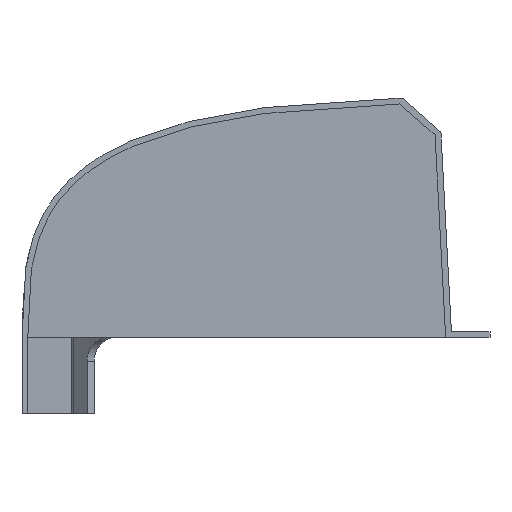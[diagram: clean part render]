
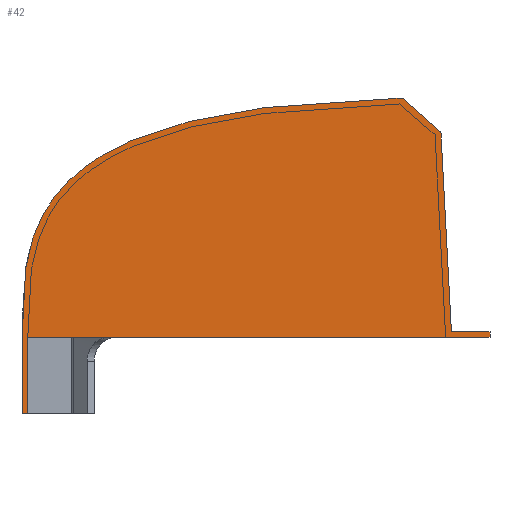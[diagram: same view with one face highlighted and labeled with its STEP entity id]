
A CAD part, left-side view. The second image highlights one B-rep face of the part: STEP entity #42.
In plain terms, the highlighted planar face has unit normal (-1, 0, 0).
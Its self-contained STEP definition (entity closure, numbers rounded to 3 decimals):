
#42=ADVANCED_FACE('',(#76),#525,.T.);
#76=FACE_OUTER_BOUND('',#110,.T.);
#110=EDGE_LOOP('',(#248,#249,#250,#251,#252,#253,#254,#255,#256,#257));
#248=ORIENTED_EDGE('',*,*,#360,.T.);
#249=ORIENTED_EDGE('',*,*,#322,.F.);
#250=ORIENTED_EDGE('',*,*,#325,.F.);
#251=ORIENTED_EDGE('',*,*,#319,.F.);
#252=ORIENTED_EDGE('',*,*,#371,.F.);
#253=ORIENTED_EDGE('',*,*,#361,.F.);
#254=ORIENTED_EDGE('',*,*,#362,.F.);
#255=ORIENTED_EDGE('',*,*,#352,.T.);
#256=ORIENTED_EDGE('',*,*,#356,.T.);
#257=ORIENTED_EDGE('',*,*,#358,.T.);
#319=EDGE_CURVE('',#473,#502,#413,.T.);
#322=EDGE_CURVE('',#504,#503,#416,.T.);
#325=EDGE_CURVE('',#502,#504,#419,.T.);
#352=EDGE_CURVE('',#518,#517,#446,.T.);
#356=EDGE_CURVE('',#517,#519,#450,.T.);
#358=EDGE_CURVE('',#519,#520,#452,.T.);
#360=EDGE_CURVE('',#520,#503,#454,.T.);
#361=EDGE_CURVE('',#521,#472,#455,.T.);
#362=EDGE_CURVE('',#518,#521,#456,.T.);
#371=EDGE_CURVE('',#472,#473,#465,.T.);
#413=B_SPLINE_CURVE_WITH_KNOTS('',1,(#27904,#27905),.UNSPECIFIED.,.F.,.F.,
(2,2),(1232.009,1238.009),.UNSPECIFIED.);
#416=B_SPLINE_CURVE_WITH_KNOTS('',3,(#27917,#27918,#27919,#27920,#27921,
#27922,#27923,#27924,#27925,#27926,#27927,#27928,#27929,#27930,#27931,#27932,
#27933,#27934,#27935,#27936,#27937,#27938,#27939,#27940,#27941,#27942,#27943,
#27944,#27945,#27946,#27947,#27948,#27949,#27950,#27951,#27952,#27953,#27954,
#27955,#27956),.UNSPECIFIED.,.F.,.F.,(4,3,3,3,3,3,3,3,3,3,3,3,3,4),(0.,42.077,
84.105,126.004,168.138,210.272,252.33,
294.349,336.374,378.387,420.41,462.431,
504.437,543.405),.UNSPECIFIED.);
#419=B_SPLINE_CURVE_WITH_KNOTS('',1,(#27974,#27975),.UNSPECIFIED.,.F.,.F.,
(2,2),(0.,80.),.UNSPECIFIED.);
#446=B_SPLINE_CURVE_WITH_KNOTS('',1,(#28544,#28545),.UNSPECIFIED.,.F.,.F.,
(2,2),(80.012,86.),.UNSPECIFIED.);
#450=B_SPLINE_CURVE_WITH_KNOTS('',1,(#28562,#28563),.UNSPECIFIED.,.F.,.F.,
(2,2),(748.533,788.899),.UNSPECIFIED.);
#452=B_SPLINE_CURVE_WITH_KNOTS('',3,(#28574,#28575,#28576,#28577),
 .UNSPECIFIED.,.F.,.F.,(4,4),(-209.236,0.),.UNSPECIFIED.);
#454=B_SPLINE_CURVE_WITH_KNOTS('',3,(#28588,#28589,#28590,#28591),
 .UNSPECIFIED.,.F.,.F.,(4,4),(0.,54.004),.UNSPECIFIED.);
#455=B_SPLINE_CURVE_WITH_KNOTS('',1,(#28592,#28593),.UNSPECIFIED.,.F.,.F.,
(2,2),(-517.42,-80.012),.UNSPECIFIED.);
#456=B_SPLINE_CURVE_WITH_KNOTS('',1,(#28594,#28595),.UNSPECIFIED.,.F.,.F.,
(2,2),(-563.487,-517.42),.UNSPECIFIED.);
#465=B_SPLINE_CURVE_WITH_KNOTS('',3,(#28642,#28643,#28644,#28645),
 .UNSPECIFIED.,.F.,.F.,(4,4),(-7449.754,-7369.748),
 .UNSPECIFIED.);
#472=VERTEX_POINT('',#25839);
#473=VERTEX_POINT('',#25840);
#502=VERTEX_POINT('',#25869);
#503=VERTEX_POINT('',#25870);
#504=VERTEX_POINT('',#25871);
#517=VERTEX_POINT('',#25884);
#518=VERTEX_POINT('',#25885);
#519=VERTEX_POINT('',#25886);
#520=VERTEX_POINT('',#25887);
#521=VERTEX_POINT('',#25888);
#525=PLANE('',#647);
#647=AXIS2_PLACEMENT_3D('',#25581,#654,$);
#654=DIRECTION('',(-1.,0.,0.));
#25581=CARTESIAN_POINT('',(69310.876,16196.982,519.984));
#25839=CARTESIAN_POINT('',(69310.876,16803.986,599.995));
#25840=CARTESIAN_POINT('',(69310.876,16803.986,519.984));
#25869=CARTESIAN_POINT('',(69310.876,16809.986,519.984));
#25870=CARTESIAN_POINT('',(69310.876,16412.512,850.445));
#25871=CARTESIAN_POINT('',(69310.876,16809.986,599.984));
#25884=CARTESIAN_POINT('',(69310.876,16320.51,605.984));
#25885=CARTESIAN_POINT('',(69310.876,16320.51,599.995));
#25886=CARTESIAN_POINT('',(69310.876,16360.876,605.984));
#25887=CARTESIAN_POINT('',(69310.876,16371.826,814.933));
#25888=CARTESIAN_POINT('',(69310.876,16366.577,599.995));
#27904=CARTESIAN_POINT('',(69310.876,16803.986,519.984));
#27905=CARTESIAN_POINT('',(69310.876,16809.986,519.984));
#27917=CARTESIAN_POINT('',(69310.876,16809.986,599.984));
#27918=CARTESIAN_POINT('',(69310.876,16809.986,614.002));
#27919=CARTESIAN_POINT('',(69310.876,16809.977,628.037));
#27920=CARTESIAN_POINT('',(69310.876,16809.229,642.041));
#27921=CARTESIAN_POINT('',(69310.876,16808.484,655.992));
#27922=CARTESIAN_POINT('',(69310.876,16807.004,669.981));
#27923=CARTESIAN_POINT('',(69310.876,16804.101,683.666));
#27924=CARTESIAN_POINT('',(69310.876,16801.209,697.298));
#27925=CARTESIAN_POINT('',(69310.876,16796.906,710.625));
#27926=CARTESIAN_POINT('',(69310.876,16790.736,723.147));
#27927=CARTESIAN_POINT('',(69310.876,16784.558,735.686));
#27928=CARTESIAN_POINT('',(69310.876,16776.53,747.375));
#27929=CARTESIAN_POINT('',(69310.876,16767.098,757.687));
#27930=CARTESIAN_POINT('',(69310.876,16757.636,768.032));
#27931=CARTESIAN_POINT('',(69310.876,16746.744,777.013));
#27932=CARTESIAN_POINT('',(69310.876,16735.098,784.779));
#27933=CARTESIAN_POINT('',(69310.876,16723.442,792.553));
#27934=CARTESIAN_POINT('',(69310.876,16711.021,799.118));
#27935=CARTESIAN_POINT('',(69310.876,16698.22,804.782));
#27936=CARTESIAN_POINT('',(69310.876,16685.415,810.448));
#27937=CARTESIAN_POINT('',(69310.876,16672.23,815.213));
#27938=CARTESIAN_POINT('',(69310.876,16658.851,819.326));
#27939=CARTESIAN_POINT('',(69310.876,16645.465,823.442));
#27940=CARTESIAN_POINT('',(69310.876,16631.881,826.906));
#27941=CARTESIAN_POINT('',(69310.876,16618.202,829.89));
#27942=CARTESIAN_POINT('',(69310.876,16604.519,832.874));
#27943=CARTESIAN_POINT('',(69310.876,16590.738,835.378));
#27944=CARTESIAN_POINT('',(69310.876,16576.9,837.52));
#27945=CARTESIAN_POINT('',(69310.876,16563.059,839.663));
#27946=CARTESIAN_POINT('',(69310.876,16549.161,841.444));
#27947=CARTESIAN_POINT('',(69310.876,16535.236,842.946));
#27948=CARTESIAN_POINT('',(69310.876,16521.31,844.449));
#27949=CARTESIAN_POINT('',(69310.876,16507.357,845.673));
#27950=CARTESIAN_POINT('',(69310.876,16493.387,846.682));
#27951=CARTESIAN_POINT('',(69310.876,16479.425,847.689));
#27952=CARTESIAN_POINT('',(69310.876,16465.437,848.481));
#27953=CARTESIAN_POINT('',(69310.876,16451.453,849.106));
#27954=CARTESIAN_POINT('',(69310.876,16438.462,849.687));
#27955=CARTESIAN_POINT('',(69310.876,16425.507,850.122));
#27956=CARTESIAN_POINT('',(69310.876,16412.512,850.445));
#27974=CARTESIAN_POINT('',(69310.876,16809.986,519.984));
#27975=CARTESIAN_POINT('',(69310.876,16809.986,599.984));
#28544=CARTESIAN_POINT('',(69310.876,16320.51,599.995));
#28545=CARTESIAN_POINT('',(69310.876,16320.51,605.984));
#28562=CARTESIAN_POINT('',(69310.876,16320.51,605.984));
#28563=CARTESIAN_POINT('',(69310.876,16360.876,605.984));
#28574=CARTESIAN_POINT('',(69310.876,16360.876,605.984));
#28575=CARTESIAN_POINT('',(69310.876,16364.526,675.634));
#28576=CARTESIAN_POINT('',(69310.876,16368.176,745.283));
#28577=CARTESIAN_POINT('',(69310.876,16371.826,814.933));
#28588=CARTESIAN_POINT('',(69310.876,16371.826,814.933));
#28589=CARTESIAN_POINT('',(69310.876,16385.388,826.77));
#28590=CARTESIAN_POINT('',(69310.876,16398.95,838.608));
#28591=CARTESIAN_POINT('',(69310.876,16412.512,850.445));
#28592=CARTESIAN_POINT('',(69310.876,16366.577,599.995));
#28593=CARTESIAN_POINT('',(69310.876,16803.986,599.995));
#28594=CARTESIAN_POINT('',(69310.876,16320.51,599.995));
#28595=CARTESIAN_POINT('',(69310.876,16366.577,599.995));
#28642=CARTESIAN_POINT('',(69310.876,16803.986,599.995));
#28643=CARTESIAN_POINT('',(69310.876,16803.986,573.325));
#28644=CARTESIAN_POINT('',(69310.876,16803.986,546.654));
#28645=CARTESIAN_POINT('',(69310.876,16803.986,519.984));
